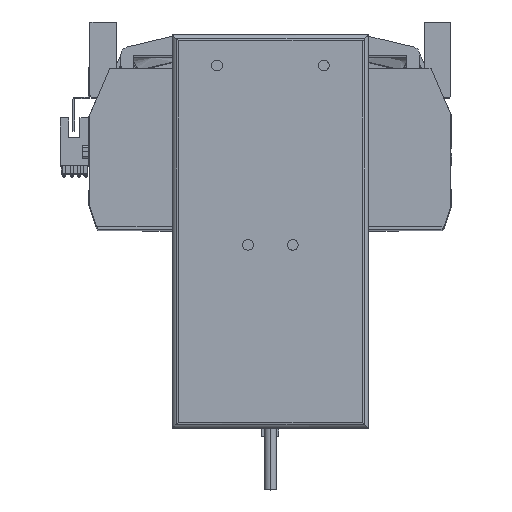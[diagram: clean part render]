
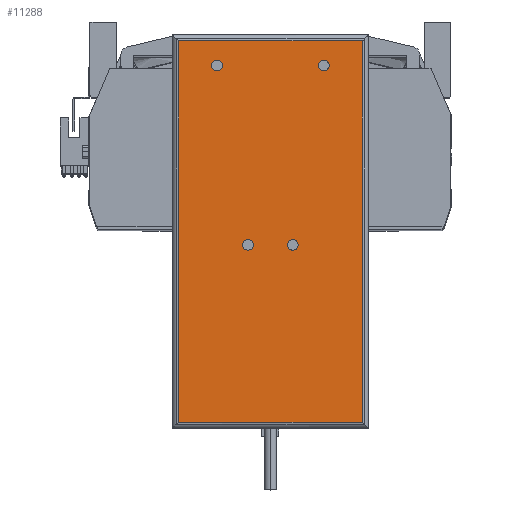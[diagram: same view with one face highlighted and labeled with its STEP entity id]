
A CAD part, top view. The second image highlights one B-rep face of the part: STEP entity #11288.
In plain terms, the highlighted planar face has unit normal (0, 0, 1) as drawn and (0, 0, -1) by its records, which use the part's own axes.
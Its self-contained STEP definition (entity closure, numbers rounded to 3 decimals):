
#1167 = DIRECTION ( 'NONE',  ( -1., 0., 0. ) ) ;
#1347 = CARTESIAN_POINT ( 'NONE',  ( -10.5, -6.25, 0. ) ) ;
#1520 = FACE_OUTER_BOUND ( 'NONE', #4735, .T. ) ;
#1686 = CIRCLE ( 'NONE', #20756, 2.5 ) ;
#2391 = CIRCLE ( 'NONE', #2678, 2.5 ) ;
#2678 = AXIS2_PLACEMENT_3D ( 'NONE', #13084, #6440, #46006 ) ;
#2789 = EDGE_LOOP ( 'NONE', ( #31413, #36460 ) ) ;
#2819 = AXIS2_PLACEMENT_3D ( 'NONE', #10302, #24760, #6749 ) ;
#3169 = CARTESIAN_POINT ( 'NONE',  ( -46., -89.25, 0. ) ) ;
#3903 = LINE ( 'NONE', #45909, #23429 ) ;
#4735 = EDGE_LOOP ( 'NONE', ( #19439, #22035, #12225, #29802 ) ) ;
#4940 = EDGE_CURVE ( 'NONE', #30615, #20923, #46777, .T. ) ;
#5831 = CARTESIAN_POINT ( 'NONE',  ( 27.5, 77.75, 0. ) ) ;
#6440 = DIRECTION ( 'NONE',  ( 0., 0., -1. ) ) ;
#6496 = EDGE_LOOP ( 'NONE', ( #43626, #18883 ) ) ;
#6604 = DIRECTION ( 'NONE',  ( -1., 0., 0. ) ) ;
#6650 = VERTEX_POINT ( 'NONE', #30410 ) ;
#6749 = DIRECTION ( 'NONE',  ( 1., 0., 0. ) ) ;
#6852 = DIRECTION ( 'NONE',  ( 0., 0., -1. ) ) ;
#7205 = FACE_BOUND ( 'NONE', #33686, .T. ) ;
#8188 = DIRECTION ( 'NONE',  ( -1., 0., 0. ) ) ;
#8954 = CARTESIAN_POINT ( 'NONE',  ( 22.5, 77.75, 0. ) ) ;
#9123 = ORIENTED_EDGE ( 'NONE', *, *, #11786, .F. ) ;
#9196 = DIRECTION ( 'NONE',  ( 0., 1., 0. ) ) ;
#9290 = DIRECTION ( 'NONE',  ( -1., 0., 0. ) ) ;
#9352 = VERTEX_POINT ( 'NONE', #23033 ) ;
#10097 = CARTESIAN_POINT ( 'NONE',  ( 25., 77.75, 0. ) ) ;
#10302 = CARTESIAN_POINT ( 'NONE',  ( -46., -92.25, 0. ) ) ;
#10677 = FACE_BOUND ( 'NONE', #6496, .T. ) ;
#11288 = ADVANCED_FACE ( 'NONE', ( #1520, #36530, #46886, #10677, #7205 ), #13564, .F. ) ;
#11579 = EDGE_CURVE ( 'NONE', #9352, #47207, #18700, .T. ) ;
#11786 = EDGE_CURVE ( 'NONE', #20923, #30615, #26684, .T. ) ;
#12027 = EDGE_CURVE ( 'NONE', #30713, #46525, #47446, .T. ) ;
#12225 = ORIENTED_EDGE ( 'NONE', *, *, #12027, .T. ) ;
#12539 = CARTESIAN_POINT ( 'NONE',  ( 13., -6.25, 0. ) ) ;
#13084 = CARTESIAN_POINT ( 'NONE',  ( 10.5, -6.25, 0. ) ) ;
#13169 = EDGE_CURVE ( 'NONE', #46525, #23965, #30759, .T. ) ;
#13564 = PLANE ( 'NONE',  #2819 ) ;
#14576 = CIRCLE ( 'NONE', #35667, 2.5 ) ;
#15264 = DIRECTION ( 'NONE',  ( 0., 0., -1. ) ) ;
#15536 = AXIS2_PLACEMENT_3D ( 'NONE', #37246, #15264, #1167 ) ;
#16600 = EDGE_CURVE ( 'NONE', #37553, #32407, #2391, .T. ) ;
#17101 = AXIS2_PLACEMENT_3D ( 'NONE', #47301, #40211, #6604 ) ;
#18355 = DIRECTION ( 'NONE',  ( -1., 0., 0. ) ) ;
#18700 = CIRCLE ( 'NONE', #38560, 2.5 ) ;
#18883 = ORIENTED_EDGE ( 'NONE', *, *, #35447, .F. ) ;
#19180 = CARTESIAN_POINT ( 'NONE',  ( -22.5, 77.75, 0. ) ) ;
#19260 = VECTOR ( 'NONE', #32985, 1000. ) ;
#19439 = ORIENTED_EDGE ( 'NONE', *, *, #44478, .T. ) ;
#20756 = AXIS2_PLACEMENT_3D ( 'NONE', #26639, #34245, #8188 ) ;
#20923 = VERTEX_POINT ( 'NONE', #8954 ) ;
#22035 = ORIENTED_EDGE ( 'NONE', *, *, #22991, .T. ) ;
#22991 = EDGE_CURVE ( 'NONE', #6650, #30713, #41610, .T. ) ;
#23033 = CARTESIAN_POINT ( 'NONE',  ( -13., -6.25, 0. ) ) ;
#23429 = VECTOR ( 'NONE', #46222, 1000. ) ;
#23820 = CARTESIAN_POINT ( 'NONE',  ( -43., -92.25, 0. ) ) ;
#23965 = VERTEX_POINT ( 'NONE', #25896 ) ;
#23997 = CIRCLE ( 'NONE', #17101, 2.5 ) ;
#24760 = DIRECTION ( 'NONE',  ( 0., 0., 1. ) ) ;
#25265 = CARTESIAN_POINT ( 'NONE',  ( -43., -89.25, 0. ) ) ;
#25273 = CARTESIAN_POINT ( 'NONE',  ( 8., -6.25, 0. ) ) ;
#25896 = CARTESIAN_POINT ( 'NONE',  ( 43., 89.25, 0. ) ) ;
#26336 = ORIENTED_EDGE ( 'NONE', *, *, #11579, .F. ) ;
#26639 = CARTESIAN_POINT ( 'NONE',  ( -25., 77.75, 0. ) ) ;
#26684 = CIRCLE ( 'NONE', #41980, 2.5 ) ;
#26891 = EDGE_CURVE ( 'NONE', #32407, #37553, #23997, .T. ) ;
#26952 = DIRECTION ( 'NONE',  ( -1., 0., 0. ) ) ;
#27736 = VECTOR ( 'NONE', #28817, 1000. ) ;
#28794 = CARTESIAN_POINT ( 'NONE',  ( -46., 89.25, 0. ) ) ;
#28817 = DIRECTION ( 'NONE',  ( -1., 0., 0. ) ) ;
#29264 = CARTESIAN_POINT ( 'NONE',  ( -10.5, -6.25, 0. ) ) ;
#29802 = ORIENTED_EDGE ( 'NONE', *, *, #13169, .T. ) ;
#30410 = CARTESIAN_POINT ( 'NONE',  ( 43., -89.25, 0. ) ) ;
#30615 = VERTEX_POINT ( 'NONE', #5831 ) ;
#30713 = VERTEX_POINT ( 'NONE', #25265 ) ;
#30759 = LINE ( 'NONE', #28794, #19260 ) ;
#30825 = EDGE_CURVE ( 'NONE', #47207, #9352, #14576, .T. ) ;
#31054 = CIRCLE ( 'NONE', #42338, 2.5 ) ;
#31413 = ORIENTED_EDGE ( 'NONE', *, *, #16600, .F. ) ;
#31658 = CARTESIAN_POINT ( 'NONE',  ( -43., 89.25, 0. ) ) ;
#32051 = CARTESIAN_POINT ( 'NONE',  ( -8., -6.25, 0. ) ) ;
#32407 = VERTEX_POINT ( 'NONE', #12539 ) ;
#32985 = DIRECTION ( 'NONE',  ( 1., 0., 0. ) ) ;
#33686 = EDGE_LOOP ( 'NONE', ( #9123, #33985 ) ) ;
#33985 = ORIENTED_EDGE ( 'NONE', *, *, #4940, .F. ) ;
#34245 = DIRECTION ( 'NONE',  ( 0., 0., -1. ) ) ;
#35447 = EDGE_CURVE ( 'NONE', #40816, #46463, #1686, .T. ) ;
#35667 = AXIS2_PLACEMENT_3D ( 'NONE', #29264, #44232, #18355 ) ;
#36269 = DIRECTION ( 'NONE',  ( -1., 0., 0. ) ) ;
#36460 = ORIENTED_EDGE ( 'NONE', *, *, #26891, .F. ) ;
#36530 = FACE_BOUND ( 'NONE', #45622, .T. ) ;
#37246 = CARTESIAN_POINT ( 'NONE',  ( 25., 77.75, 0. ) ) ;
#37553 = VERTEX_POINT ( 'NONE', #25273 ) ;
#38560 = AXIS2_PLACEMENT_3D ( 'NONE', #1347, #41655, #26952 ) ;
#40211 = DIRECTION ( 'NONE',  ( 0., 0., -1. ) ) ;
#40816 = VERTEX_POINT ( 'NONE', #19180 ) ;
#41610 = LINE ( 'NONE', #3169, #27736 ) ;
#41655 = DIRECTION ( 'NONE',  ( 0., 0., -1. ) ) ;
#41957 = DIRECTION ( 'NONE',  ( 0., 0., -1. ) ) ;
#41980 = AXIS2_PLACEMENT_3D ( 'NONE', #10097, #6852, #36269 ) ;
#41992 = CARTESIAN_POINT ( 'NONE',  ( -27.5, 77.75, 0. ) ) ;
#42338 = AXIS2_PLACEMENT_3D ( 'NONE', #45948, #41957, #9290 ) ;
#43064 = EDGE_CURVE ( 'NONE', #46463, #40816, #31054, .T. ) ;
#43626 = ORIENTED_EDGE ( 'NONE', *, *, #43064, .F. ) ;
#44232 = DIRECTION ( 'NONE',  ( 0., 0., -1. ) ) ;
#44478 = EDGE_CURVE ( 'NONE', #23965, #6650, #3903, .T. ) ;
#45130 = VECTOR ( 'NONE', #9196, 1000. ) ;
#45622 = EDGE_LOOP ( 'NONE', ( #26336, #47422 ) ) ;
#45909 = CARTESIAN_POINT ( 'NONE',  ( 43., -92.25, 0. ) ) ;
#45948 = CARTESIAN_POINT ( 'NONE',  ( -25., 77.75, 0. ) ) ;
#46006 = DIRECTION ( 'NONE',  ( -1., 0., 0. ) ) ;
#46222 = DIRECTION ( 'NONE',  ( 0., -1., 0. ) ) ;
#46463 = VERTEX_POINT ( 'NONE', #41992 ) ;
#46525 = VERTEX_POINT ( 'NONE', #31658 ) ;
#46777 = CIRCLE ( 'NONE', #15536, 2.5 ) ;
#46886 = FACE_BOUND ( 'NONE', #2789, .T. ) ;
#47207 = VERTEX_POINT ( 'NONE', #32051 ) ;
#47301 = CARTESIAN_POINT ( 'NONE',  ( 10.5, -6.25, 0. ) ) ;
#47422 = ORIENTED_EDGE ( 'NONE', *, *, #30825, .F. ) ;
#47446 = LINE ( 'NONE', #23820, #45130 ) ;
